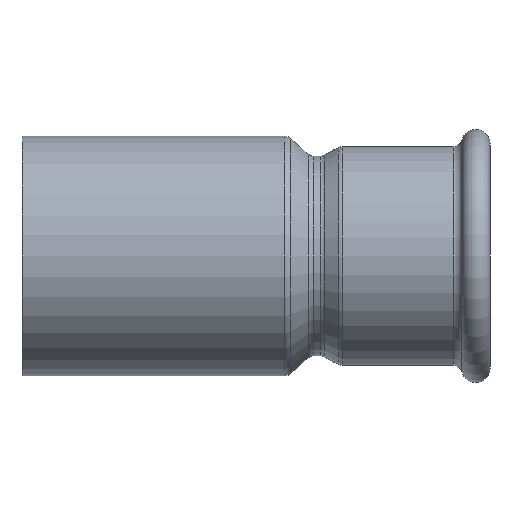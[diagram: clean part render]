
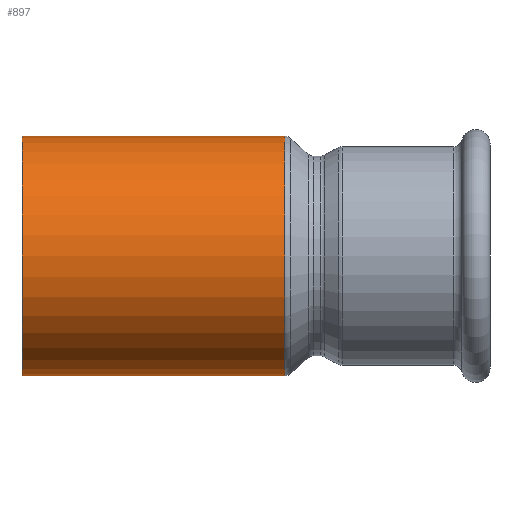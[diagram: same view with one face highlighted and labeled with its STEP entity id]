
A CAD part, front view. The second image highlights one B-rep face of the part: STEP entity #897.
In plain terms, the highlighted cylindrical face has radius 21 mm (diameter 42 mm), a partial arc.
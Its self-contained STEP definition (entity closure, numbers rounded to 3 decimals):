
#25 = CARTESIAN_POINT ( 'NONE',  ( -39.135, 0., 0. ) ) ;
#54 = CYLINDRICAL_SURFACE ( 'NONE', #475, 21. ) ;
#71 = ORIENTED_EDGE ( 'NONE', *, *, #947, .T. ) ;
#81 = EDGE_CURVE ( 'NONE', #487, #698, #458, .T. ) ;
#89 = VERTEX_POINT ( 'NONE', #107 ) ;
#107 = CARTESIAN_POINT ( 'NONE',  ( -39.135, 0., 21. ) ) ;
#121 = CARTESIAN_POINT ( 'NONE',  ( -53.513, 0., 21. ) ) ;
#189 = CARTESIAN_POINT ( 'NONE',  ( 6.865, 0., 0. ) ) ;
#207 = LINE ( 'NONE', #121, #336 ) ;
#233 = DIRECTION ( 'NONE',  ( -1., 0., 0. ) ) ;
#283 = VERTEX_POINT ( 'NONE', #374 ) ;
#292 = ORIENTED_EDGE ( 'NONE', *, *, #478, .F. ) ;
#311 = ORIENTED_EDGE ( 'NONE', *, *, #923, .F. ) ;
#327 = CARTESIAN_POINT ( 'NONE',  ( -53.513, 0., -21. ) ) ;
#336 = VECTOR ( 'NONE', #560, 1000. ) ;
#343 = DIRECTION ( 'NONE',  ( 0., 0., 1. ) ) ;
#366 = CARTESIAN_POINT ( 'NONE',  ( 6.865, 0., 21. ) ) ;
#374 = CARTESIAN_POINT ( 'NONE',  ( -39.135, 0., -21. ) ) ;
#456 = CIRCLE ( 'NONE', #707, 21. ) ;
#458 = CIRCLE ( 'NONE', #801, 21. ) ;
#475 = AXIS2_PLACEMENT_3D ( 'NONE', #999, #233, #494 ) ;
#478 = EDGE_CURVE ( 'NONE', #283, #89, #456, .T. ) ;
#482 = EDGE_LOOP ( 'NONE', ( #311, #755, #71, #292 ) ) ;
#487 = VERTEX_POINT ( 'NONE', #681 ) ;
#494 = DIRECTION ( 'NONE',  ( 0., 0., 1. ) ) ;
#560 = DIRECTION ( 'NONE',  ( -1., 0., 0. ) ) ;
#666 = DIRECTION ( 'NONE',  ( -1., 0., 0. ) ) ;
#681 = CARTESIAN_POINT ( 'NONE',  ( 6.865, 0., -21. ) ) ;
#698 = VERTEX_POINT ( 'NONE', #366 ) ;
#707 = AXIS2_PLACEMENT_3D ( 'NONE', #25, #1014, #343 ) ;
#755 = ORIENTED_EDGE ( 'NONE', *, *, #81, .T. ) ;
#770 = DIRECTION ( 'NONE',  ( 0., 0., -1. ) ) ;
#801 = AXIS2_PLACEMENT_3D ( 'NONE', #189, #1032, #770 ) ;
#897 = ADVANCED_FACE ( 'NONE', ( #909 ), #54, .T. ) ;
#909 = FACE_OUTER_BOUND ( 'NONE', #482, .T. ) ;
#923 = EDGE_CURVE ( 'NONE', #487, #283, #1088, .T. ) ;
#947 = EDGE_CURVE ( 'NONE', #698, #89, #207, .T. ) ;
#999 = CARTESIAN_POINT ( 'NONE',  ( -53.513, 0., 0. ) ) ;
#1014 = DIRECTION ( 'NONE',  ( -1., 0., 0. ) ) ;
#1032 = DIRECTION ( 'NONE',  ( -1., 0., 0. ) ) ;
#1081 = VECTOR ( 'NONE', #666, 1000. ) ;
#1088 = LINE ( 'NONE', #327, #1081 ) ;
